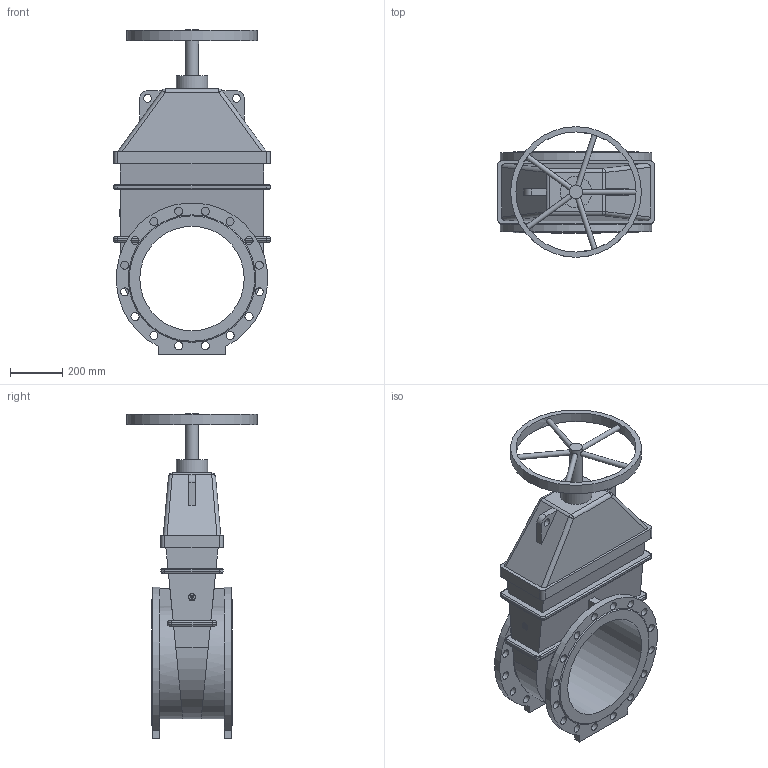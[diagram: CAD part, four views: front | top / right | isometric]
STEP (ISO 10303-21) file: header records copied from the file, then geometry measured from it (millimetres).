
FILE_DESCRIPTION(('STEP AP203'), '1');
FILE_NAME('Çàäâèæêà 47GV DN400 PN16_L310 ñ ìàõîâèêîì', '', ('UNSPECIFIED'), ('UNSPECIFIED'), 'ASCON STEP Converter 1.6', 'ASCON Math Kernel', '');
FILE_SCHEMA(('CONFIG_CONTROL_DESIGN'));
Length unit declared in the file: millimetre
Bounding box: 600 x 500 x 1243 mm (x, y, z)
Volume: 71986056.4 mm3; surface area: 2707025.7 mm2
Topology: 1 solids, 1 shells, 201 faces, 513 edges, 324 vertices
Faces by surface type: cylinder 98, plane 81, bspline 12, torus 8, cone 2
Full cylindrical faces by diameter (mm): 20 x5, 30 x2, 31 x32, 50 x1, 120 x1, 400 x1, 460 x1, 500 x1
Entity records: 9992 total; most frequent: CARTESIAN_POINT 3566, DIRECTION 956, ORIENTED_EDGE 924, EDGE_CURVE 462, AXIS2_PLACEMENT_3D 364, EDGE_LOOP 342, VERTEX_POINT 324, FACE_BOUND 251
